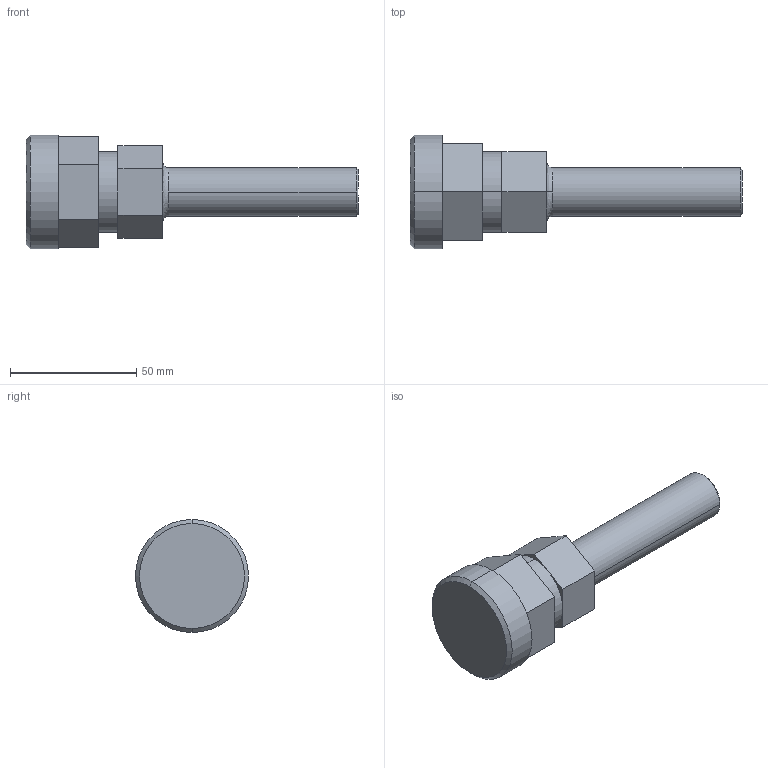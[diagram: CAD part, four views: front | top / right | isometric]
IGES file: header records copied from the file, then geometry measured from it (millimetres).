
Start section: SolidWorks IGES file using analytic representation for surfaces
Global section: file name: S:\Product Visuals\REVISED-60L-TOP-MOUNT-FITTINGS\IGS\top-straight-outlet-only\tubeout\12-tube-out-with-top-mount-adapter.IGS; native system: SolidWorks 2012; preprocessor: SolidWorks 2012; author: rachel.dressel; date: 121127.140542; units: inch
Bounding box: 131.24 x 44.7 x 44.7 mm (x, y, z)
Volume: 83416.8 mm3; surface area: 14305.4 mm2
Topology: 1 solids, 1 shells, 35 faces, 80 edges, 50 vertices
Faces by surface type: plane 23, revolution 10, bspline 2
